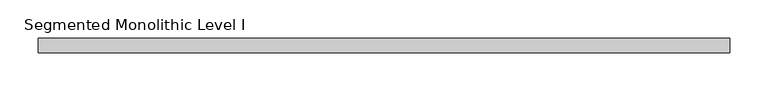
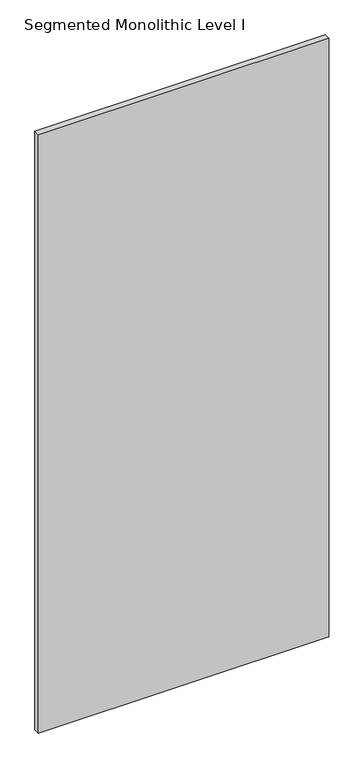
"""IFC4 building model written with IfcOpenShell, lengths in millimetres: proxy geometry, Panel-Fascia-Teknion-Altos : Segmented Monolithic Level I."""

from ifc_helpers import new_model, si_unit, frame, origin, place, context, project, spatial, polyline, outline, extrude, source, transform, mapped, element, save


def segmented_monolithic_level_i_c631dfd0(model_context):
    return source(origin(), model_context, "Body", "SweptSolid", [
        extrude(outline(polyline([(454.0305563, 9.525), (454.0305563, -9.525), (-454.0305562, -9.525), (-454.0305562, 9.525), (454.0305563, 9.525)])), frame((0.0, 0.0, 3.175), z_axis=(0.0, 0.0, 1.0), x_axis=(1.0, 0.0, 0.0)), (0.0, 0.0, 1.0), 1979.168),
    ])


if __name__ == "__main__":
    model = new_model("IFC4")
    model_context = context("Model", 3, world=origin())
    ifc_project = project(units=[si_unit("LENGTHUNIT", "METRE", prefix="MILLI")], contexts=[model_context])
    site = spatial("IfcSite", under=ifc_project)
    building = spatial("IfcBuilding", under=site)
    placement = place(None, origin())
    segmented_monolithic_level_i_shape = segmented_monolithic_level_i_c631dfd0(model_context)
    element("IfcBuildingElementProxy", 1, Name="Panel-Fascia-Teknion-Altos : Segmented Monolithic Level I", ObjectType="Panel-Fascia-Teknion-Altos : Segmented Monolithic Level I", at=placement, inside=building, context=model_context, shape_type="MappedRepresentation", body=[
        mapped(segmented_monolithic_level_i_shape, transform((0.0, 0.0, 0.0), x_axis=(1.0, 0.0, 0.0), y_axis=(0.0, 1.0, 0.0), z_axis=(0.0, 0.0, 1.0))),
    ])
    save(model, "model.ifc")
